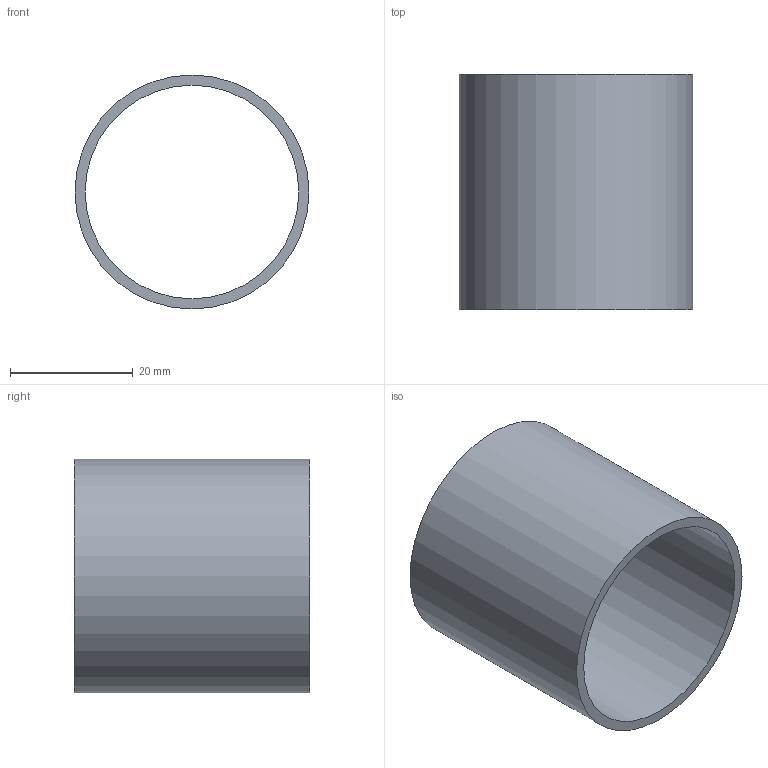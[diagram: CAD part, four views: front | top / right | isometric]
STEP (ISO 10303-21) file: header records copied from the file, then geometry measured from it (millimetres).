
FILE_DESCRIPTION(/* description */ (''),/* implementation_level */ '2;1');
FILE_NAME(/* name */ '4130-RND-150-065-IMETRIC.step',/* time_stamp */ '2025-08-05T14:54:52-07:00',/* author */ (''),/* organization */ (''),/* preprocessor_version */ 'ST-DEVELOPER v20.1',/* originating_system */ 'Autodesk Translation Framework v14.10.0.0',/* authorisation */ '');
FILE_SCHEMA (('AUTOMOTIVE_DESIGN { 1 0 10303 214 3 1 1 }'));
Length unit declared in the file: millimetre
Products named in the file (1): (Unsaved)
Bounding box: 38.1 x 38.35 x 38.1 mm (x, y, z)
Volume: 7250.9 mm3; surface area: 9161.8 mm2
Topology: 1 solids, 1 shells, 4 faces, 6 edges, 4 vertices
Faces by surface type: cylinder 2, plane 2
Full cylindrical faces by diameter (mm): 34.798 x1, 38.1 x1
Entity records: 131 total; most frequent: DIRECTION 20, CARTESIAN_POINT 15, ORIENTED_EDGE 12, AXIS2_PLACEMENT_3D 9, EDGE_LOOP 6, EDGE_CURVE 6, FACE_OUTER_BOUND 4, CIRCLE 4
